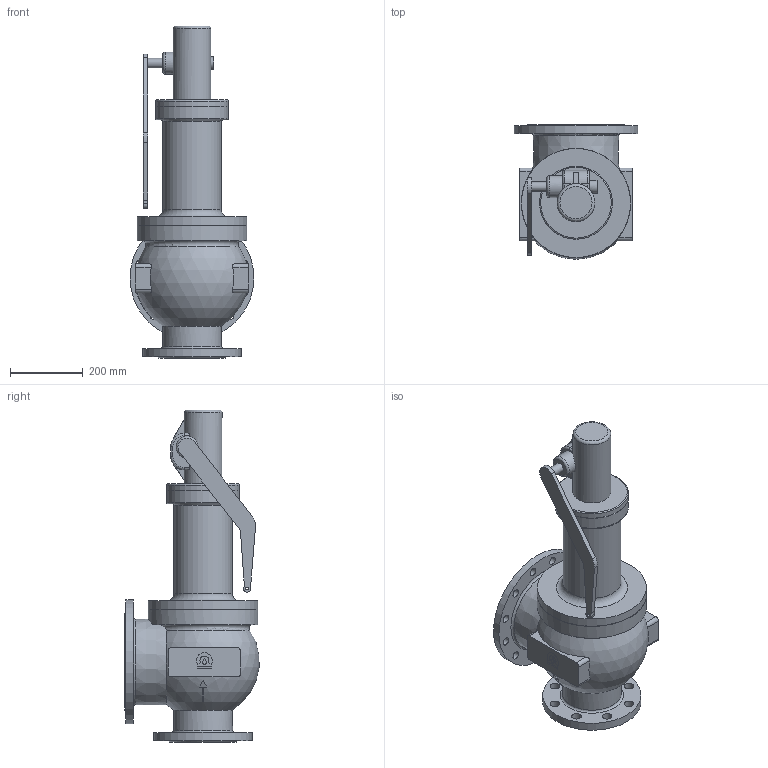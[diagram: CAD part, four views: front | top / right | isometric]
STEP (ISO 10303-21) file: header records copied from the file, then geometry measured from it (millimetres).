
FILE_DESCRIPTION(('STEP AP203'), '1');
FILE_NAME('Êëàïàí ïðåäîõðàíèòåëüíûé ïîëíîïîäüåìíûé SV2F DN125x200', '', ('UNSPECIFIED'), ('UNSPECIFIED'), 'ASCON STEP Converter 1.6', 'ASCON Math Kernel', '');
FILE_SCHEMA(('CONFIG_CONTROL_DESIGN'));
Length unit declared in the file: millimetre
Bounding box: 340 x 369.26 x 911.5 mm (x, y, z)
Volume: 24819123.7 mm3; surface area: 1297704.3 mm2
Topology: 1 solids, 1 shells, 166 faces, 480 edges, 327 vertices
Faces by surface type: plane 74, cylinder 72, torus 13, cone 4, sphere 3
Full cylindrical faces by diameter (mm): 8 x1, 22 x12, 26 x9, 35 x1, 60 x1, 104 x1, 125 x1, 160 x1, 162 x1, 185.697 x1, 200 x3, 270 x1, 276.688 x1, 300 x2, 340 x1
Entity records: 8505 total; most frequent: CARTESIAN_POINT 2726, DIRECTION 958, ORIENTED_EDGE 854, EDGE_CURVE 427, AXIS2_PLACEMENT_3D 408, VERTEX_POINT 326, EDGE_LOOP 271, CIRCLE 241
